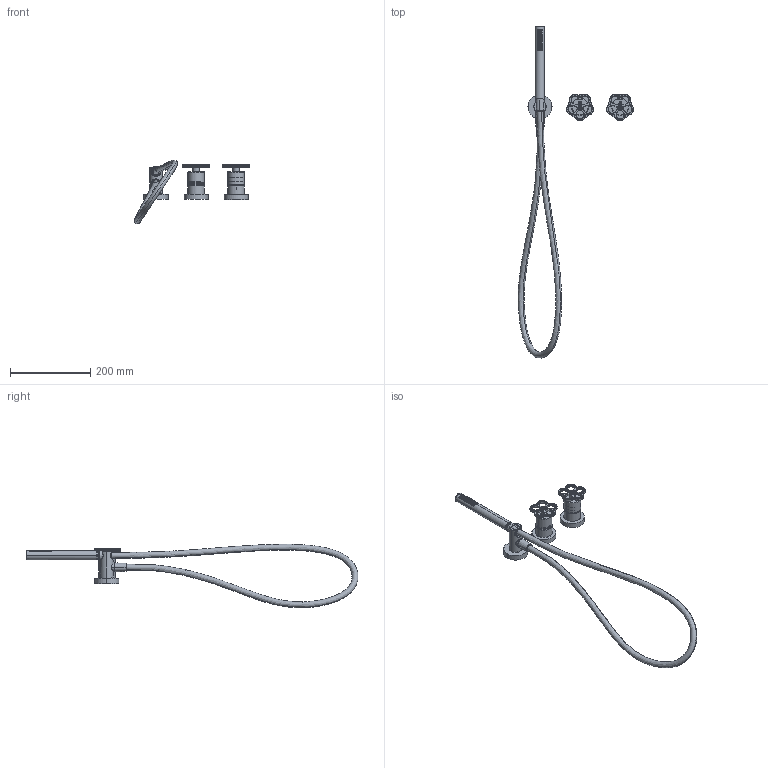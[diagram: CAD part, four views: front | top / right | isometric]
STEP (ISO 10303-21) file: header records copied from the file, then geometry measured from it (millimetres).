
FILE_DESCRIPTION((''),'2;1');
FILE_NAME('20930T584B000000_SW0001','2023-02-15T14:09:45',('matteo.follador'),(''),'CREO PARAMETRIC BY PTC INC, 2020281','CREO PARAMETRIC BY PTC INC, 2020281','');
FILE_SCHEMA(('AUTOMOTIVE_DESIGN { 1 0 10303 214 1 1 1 1 }'));
Length unit declared in the file: millimetre
Products named in the file (1): 20930T584B000000_SW0001
Bounding box: 288.19 x 828.1 x 158.39 mm (x, y, z)
Volume: 548619.6 mm3; surface area: 169766.6 mm2
Topology: 6 solids, 8 shells, 1579 faces, 4089 edges, 2602 vertices
Faces by surface type: plane 767, cylinder 297, cone 229, torus 183, bspline 102, sphere 1
Entity records: 97127 total; most frequent: CARTESIAN_POINT 47920, ORIENTED_EDGE 8174, DIRECTION 7274, EDGE_CURVE 4087, VERTEX_POINT 2602, AXIS2_PLACEMENT_3D 2459, VECTOR 2353, LINE 2353
